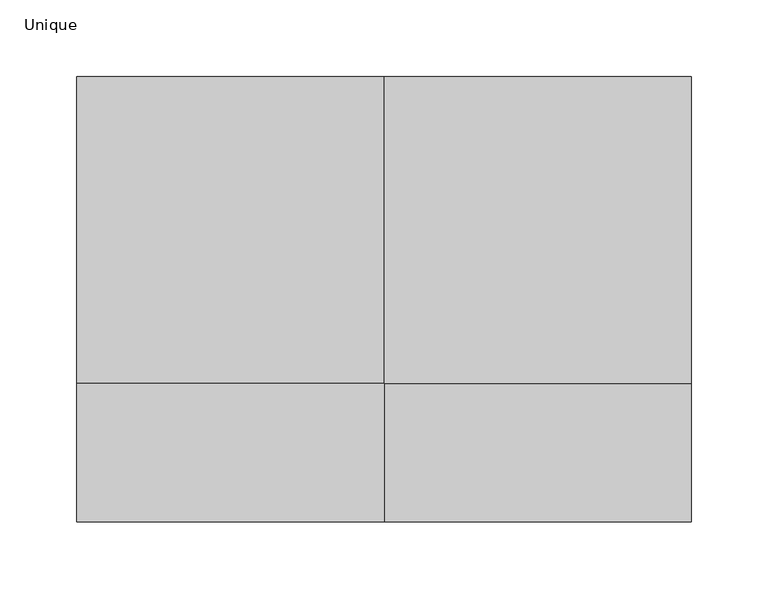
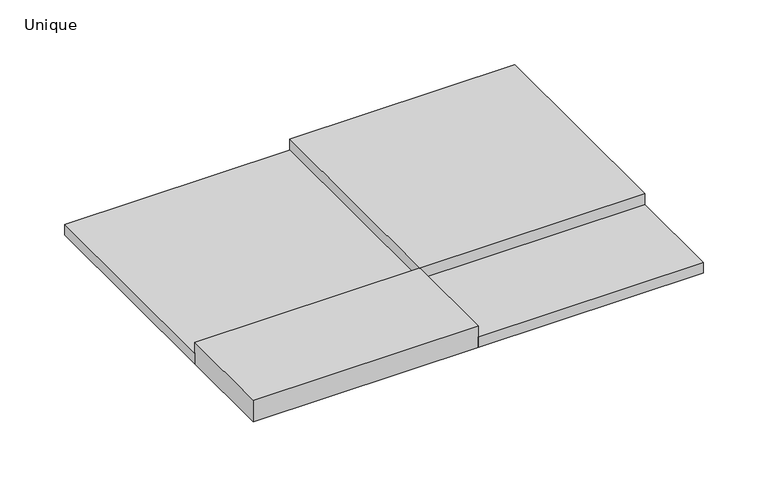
"""IFC4 building model written with IfcOpenShell, lengths in millimetres: furniture geometry, Pólis Square Panel : Unique."""

from ifc_helpers import new_model, si_unit, origin, origin_with_axes, place, context, project, spatial, polyline, outline, extrude, source, transform, mapped, element, save


def unique_7ffe7d5a(model_context):
    return source(origin(), model_context, "Body", "SweptSolid", [
        extrude(outline(polyline([(0.0, 0.0), (-200.0, 0.0), (-200.0, 200.0), (0.0, 200.0), (0.0, 0.0)])), origin_with_axes(), (0.0, 0.0, 1.0), 10.0),
        extrude(outline(polyline([(200.0, 0.0), (0.0, 0.0), (0.0, 200.0), (200.0, 200.0), (200.0, 0.0)])), origin_with_axes(), (0.0, 0.0, 1.0), 20.0),
        extrude(outline(polyline([(0.0, 0.0), (200.0, 0.0), (200.0, -90.0), (0.0, -90.0), (0.0, 0.0)])), origin_with_axes(), (0.0, 0.0, 1.0), 10.0),
        extrude(outline(polyline([(-200.0, 0.0), (0.0, 0.0), (0.0, -90.0), (-200.0, -90.0), (-200.0, 0.0)])), origin_with_axes(), (0.0, 0.0, 1.0), 20.0),
    ])


if __name__ == "__main__":
    model = new_model("IFC4")
    model_context = context("Model", 3, world=origin())
    ifc_project = project(units=[si_unit("LENGTHUNIT", "METRE", prefix="MILLI")], contexts=[model_context])
    site = spatial("IfcSite", under=ifc_project)
    building = spatial("IfcBuilding", under=site)
    placement = place(None, origin())
    unique_shape = unique_7ffe7d5a(model_context)
    element("IfcFurniture", 1, ObjectType="Pólis Square Panel : Unique", at=placement, inside=building, context=model_context, shape_type="MappedRepresentation", body=[
        mapped(unique_shape, transform((0.0, 0.0, 0.0), x_axis=(1.0, 0.0, 0.0), y_axis=(0.0, 1.0, 0.0), z_axis=(0.0, 0.0, 1.0))),
    ])
    save(model, "model.ifc")
